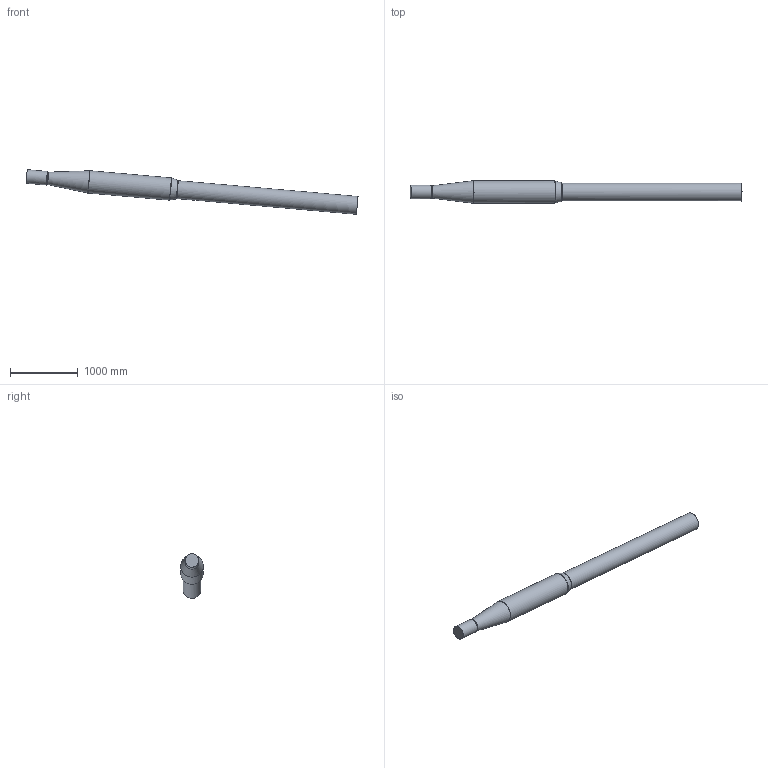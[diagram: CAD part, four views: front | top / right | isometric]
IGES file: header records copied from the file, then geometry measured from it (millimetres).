
Global section: file name: Z:\prj6.0\JFM_2018\outgoing\2022_scanned_data_JFM_0015_w_horn\2022 scans\model in tunnel at 5 deg mod\14x22_sting_in_tunnel_5deg_mod.igs; native system: NX V10.0; preprocessor: SIEMENS PLM Software NX 10.0; date: 20220822.141327; units: millimetre
Bounding box: 4892.43 x 328.82 x 657.68 mm (x, y, z)
Surface area: 4340919.3 mm2 (no closed solid volume)
Topology: 0 solids, 0 shells, 15 faces, 99 edges, 88 vertices
Faces by surface type: bspline 15
